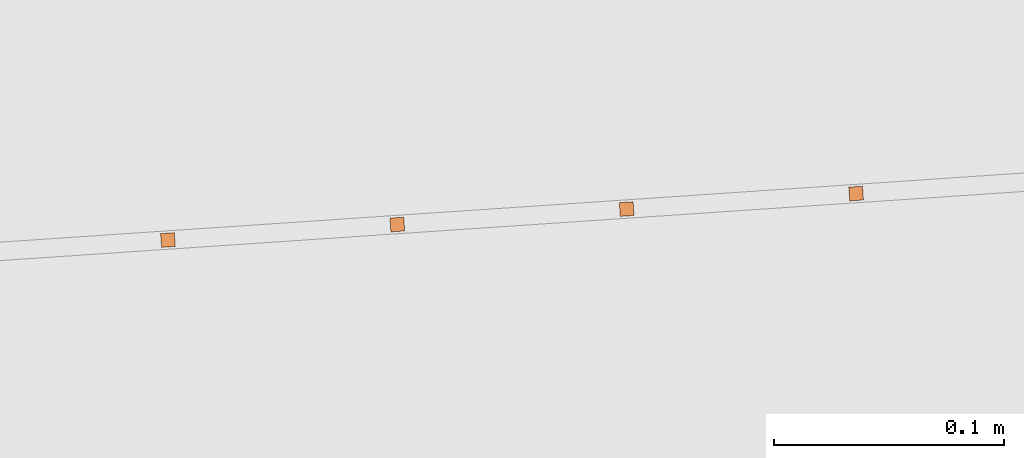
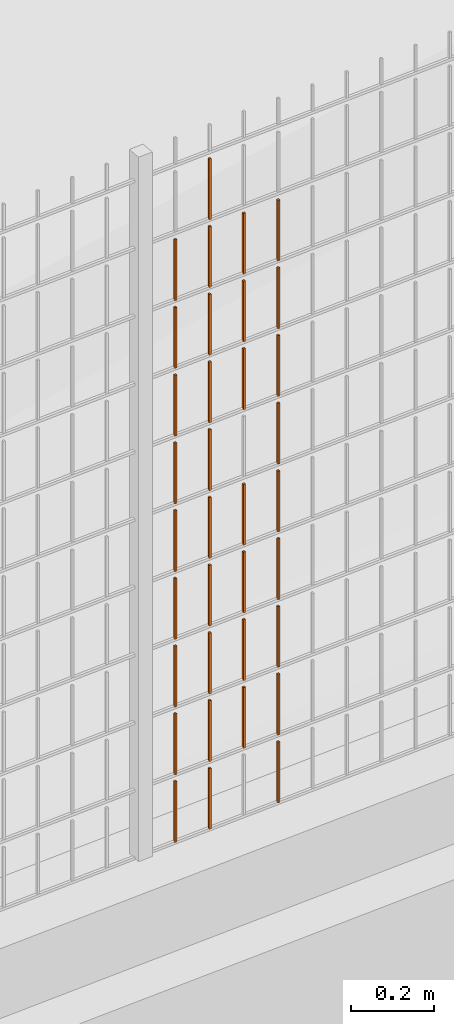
# One storey, part 103 of 1809: 35 proxies, 1 element without a shape of its own.
"""IFC2X3 building model written with IfcOpenShell, lengths in millimetres."""

import ifcopenshell
import ifcopenshell.guid

model = None  # the IFC model being written
_history = None  # IfcOwnerHistory: only IFC2X3 demands one
_inside = {}  # id of a spatial element -> (the spatial element, [elements in it])
_under = {}  # id of a project, library or spatial element -> (it, [spatial elements below it])
_declared = {}  # id of a project -> (the project, [libraries it declares])
_typed = {}  # id of a type object -> (the type object, [elements of that type])
_made_of = {}  # id of a material, layer set ... -> (it, [elements and type objects made of it])


def new_model(schema):
    """Start an empty IFC model of exactly this schema.

    Asked for "IFC4X3", IfcOpenShell would pick the latest addendum, in which some entities
    have other attributes; the version numbers below select the first issue.
    IFC2X3 requires an IfcOwnerHistory on every rooted entity: one is made here for all.
    """
    global model, _history
    if schema == "IFC4X3":
        model = ifcopenshell.file(schema_version=(4, 3, 0, 0))
    else:
        model = ifcopenshell.file(schema=schema)
    _inside.clear()
    _under.clear()
    _declared.clear()
    _typed.clear()
    _made_of.clear()
    _history = None
    if model.schema == "IFC2X3":
        org = make("IfcOrganization", Name="unknown")
        user = make(
            "IfcPersonAndOrganization",
            ThePerson=make("IfcPerson", FamilyName="unknown"),
            TheOrganization=org,
        )
        app = make(
            "IfcApplication",
            ApplicationDeveloper=org,
            Version="unknown",
            ApplicationFullName="unknown",
            ApplicationIdentifier="unknown",
        )
        _history = make(
            "IfcOwnerHistory",
            OwningUser=user,
            OwningApplication=app,
            ChangeAction="ADDED",
            CreationDate=0,
        )
    return model


def make(cls, **values):
    """One entity of the class cls with the attributes given. An attribute that is None is left unset."""
    return model.create_entity(
        cls, **{name: value for name, value in values.items() if value is not None}
    )


def entity(cls, *values):
    """Any entity or typed value of the class cls, its attributes in the order of the schema. None: left unset."""
    e = model.create_entity(cls)
    for i, value in enumerate(values):
        if value is not None:
            e[i] = value
    return e


def rooted(cls, **values):
    """An entity with a GlobalId (a new one), such as an element, a storey or a relation."""
    return make(cls, GlobalId=ifcopenshell.guid.new(), OwnerHistory=_history, **values)


def si_unit(unit_type, name, prefix=None):
    """IfcSIUnit, for example si_unit("LENGTHUNIT", "METRE", prefix="MILLI")."""
    return make("IfcSIUnit", UnitType=unit_type, Prefix=prefix, Name=name)


def converted_unit(unit_type, name, factor, base, dimensions=None, offset=None):
    """IfcConversionBasedUnit, such as the inch: factor (a typed value) times the base unit."""
    return make(
        "IfcConversionBasedUnit"
        if offset is None
        else "IfcConversionBasedUnitWithOffset",
        ConversionOffset=offset,
        Dimensions=None
        if dimensions is None
        else entity("IfcDimensionalExponents", *dimensions),
        UnitType=unit_type,
        Name=name,
        ConversionFactor=make(
            "IfcMeasureWithUnit", ValueComponent=factor, UnitComponent=base
        ),
    )


def derived_unit(unit_type, elements):
    """IfcDerivedUnit: a product of units, each with its exponent."""
    return make(
        "IfcDerivedUnit",
        Elements=[
            make("IfcDerivedUnitElement", Unit=unit, Exponent=power)
            for unit, power in elements
        ],
        UnitType=unit_type,
    )


def money_unit(currency):
    """IfcMonetaryUnit."""
    return make("IfcMonetaryUnit", Currency=currency)


def assignment(units):
    """IfcUnitAssignment: the units of a project."""
    return None if units is None else make("IfcUnitAssignment", Units=units)


def point(xyz):
    """IfcCartesianPoint."""
    return None if xyz is None else make("IfcCartesianPoint", Coordinates=xyz)


def direction(xyz):
    """IfcDirection."""
    return None if xyz is None else make("IfcDirection", DirectionRatios=xyz)


def frame(location, z_axis=None, x_axis=None):
    """IfcAxis2Placement3D, a coordinate frame: its origin and axes. An axis left out is left unset."""
    return make(
        "IfcAxis2Placement3D",
        Location=point(location),
        Axis=direction(z_axis),
        RefDirection=direction(x_axis),
    )


def origin_with_axes():
    """The frame at (0, 0, 0) with the z axis (0, 0, 1) and the x axis (1, 0, 0) written out."""
    return frame((0.0, 0.0, 0.0), z_axis=(0.0, 0.0, 1.0), x_axis=(1.0, 0.0, 0.0))


def place(relative_to, where):
    """IfcLocalPlacement: puts the frame where relative to a parent placement (None: the world)."""
    return make(
        "IfcLocalPlacement", PlacementRelTo=relative_to, RelativePlacement=where
    )


def context(
    kind, dimensions, precision=None, world=None, true_north=None, identifier=None
):
    """IfcGeometricRepresentationContext, for example the 3D "Model" context."""
    return make(
        "IfcGeometricRepresentationContext",
        ContextIdentifier=identifier,
        ContextType=kind,
        CoordinateSpaceDimension=dimensions,
        Precision=precision,
        WorldCoordinateSystem=world,
        TrueNorth=true_north,
    )


def subcontext(parent, identifier, kind, view, scale=None):
    """IfcGeometricRepresentationSubContext, for example "Body" below "Model"."""
    return make(
        "IfcGeometricRepresentationSubContext",
        ContextIdentifier=identifier,
        ContextType=kind,
        ParentContext=parent,
        TargetScale=scale,
        TargetView=view,
    )


def project(units=None, contexts=None):
    """IfcProject with its units and contexts."""
    return rooted(
        "IfcProject",
        Name="project",
        RepresentationContexts=contexts,
        UnitsInContext=assignment(units),
    )


def spatial(cls, under=None, at=None, **own):
    """A site, building, storey or space (cls), placed at a placement, below another one or the project."""
    s = rooted(cls, ObjectPlacement=at, **own)
    if under is not None:
        _under.setdefault(under.id(), (under, []))[1].append(s)
    return s


def faces_of(points, faces, orient=None, outer=None):
    """IfcFace entities. A face is a list of loops; a loop is a list of indices into points, from 0.

    orient and outer hold one flag for each loop. By default every Orientation is true, the
    first loop of a face is its IfcFaceOuterBound and the others are IfcFaceBound.
    """
    made = []
    for i, loops in enumerate(faces):
        bounds = []
        for j, loop in enumerate(loops):
            is_outer = j == 0 if outer is None else outer[i][j]
            bounds.append(
                make(
                    "IfcFaceOuterBound" if is_outer else "IfcFaceBound",
                    Bound=make("IfcPolyLoop", Polygon=[points[k] for k in loop]),
                    Orientation=True if orient is None else orient[i][j],
                )
            )
        made.append(make("IfcFace", Bounds=bounds))
    return made


def faceted_brep(points, faces, orient=None, outer=None, voids=None):
    """IfcFacetedBrep: a solid bounded by flat faces; with voids (closed shells), ...WithVoids."""
    shared = [point(p) for p in points]
    hull = make("IfcClosedShell", CfsFaces=faces_of(shared, faces, orient, outer))
    if voids is None:
        return make("IfcFacetedBrep", Outer=hull)
    return make(
        "IfcFacetedBrepWithVoids",
        Outer=hull,
        Voids=[
            make(cls, CfsFaces=faces_of(shared, fs, o, b)) for cls, fs, o, b in voids
        ],
    )


def shape(context_of_items, identifier, shape_type, items):
    """IfcShapeRepresentation: the items that make up one representation, for example the "Body"."""
    return make(
        "IfcShapeRepresentation",
        ContextOfItems=context_of_items,
        RepresentationIdentifier=identifier,
        RepresentationType=shape_type,
        Items=items,
    )


def source(mapping_origin, context_of_items, identifier, shape_type, items):
    """IfcRepresentationMap: a shape defined once, which mapped items show again and again."""
    return make(
        "IfcRepresentationMap",
        MappingOrigin=mapping_origin,
        MappedRepresentation=shape(context_of_items, identifier, shape_type, items),
    )


def transform(
    local_origin,
    x_axis=None,
    y_axis=None,
    z_axis=None,
    scale=None,
    scale2=None,
    scale3=None,
    uniform=True,
):
    """IfcCartesianTransformationOperator3D, or its non-uniform kind. x_axis, y_axis, z_axis: its Axis1, 2, 3."""
    if uniform:
        return make(
            "IfcCartesianTransformationOperator3D",
            Axis1=direction(x_axis),
            Axis2=direction(y_axis),
            LocalOrigin=point(local_origin),
            Scale=scale,
            Axis3=direction(z_axis),
        )
    return make(
        "IfcCartesianTransformationOperator3DnonUniform",
        Axis1=direction(x_axis),
        Axis2=direction(y_axis),
        LocalOrigin=point(local_origin),
        Scale=scale,
        Axis3=direction(z_axis),
        Scale2=scale2,
        Scale3=scale3,
    )


def mapped(mapping_source, mapping_target):
    """IfcMappedItem: shows the shape of a source again, moved by a transform."""
    return make(
        "IfcMappedItem", MappingSource=mapping_source, MappingTarget=mapping_target
    )


def material(Name=None, Category=None):
    """IfcMaterial."""
    return make("IfcMaterial", Name=Name, Category=Category)


def made_of(thing, what):
    """Note that an element or type object is made of a material, layer set ...; save() writes the relation."""
    if what is not None:
        _made_of.setdefault(what.id(), (what, []))[1].append(thing)
    return thing


def type_object(cls, material=None, **own):
    """A type object (cls), such as IfcWallType, which elements share."""
    return made_of(rooted(cls, **own), material)


def element(
    cls,
    number,
    at=None,
    inside=None,
    cuts=None,
    type_object=None,
    material=None,
    context=None,
    identifier="Body",
    shape_type=None,
    held_by="IfcProductDefinitionShape",
    body=None,
    shapes=None,
    **own,
):
    """One element of the class cls, such as IfcWall. Its Tag is "e" and its number.

    at: its placement. inside: the storey or other place that contains it. cuts: it is an
    opening in that element (IfcRelVoidsElement). A single representation is given by context,
    identifier, shape_type and body (its items); several are given by shapes. held_by: the class
    of the entity that holds the representations. save() writes the other relations.
    """
    e = rooted(cls, Tag="e%d" % number, ObjectPlacement=at, **own)
    if body is not None:
        shapes = [shape(context, identifier, shape_type, body)]
    if shapes is not None:
        e.Representation = make(held_by, Representations=shapes)
    if inside is not None:
        _inside.setdefault(inside.id(), (inside, []))[1].append(e)
    if cuts is not None:
        rooted(
            "IfcRelVoidsElement", RelatingBuildingElement=cuts, RelatedOpeningElement=e
        )
    if type_object is not None:
        _typed.setdefault(type_object.id(), (type_object, []))[1].append(e)
    return made_of(e, material)


def aggregate(whole, parts):
    """IfcRelAggregates: a whole, such as a stair, and the parts it consists of."""
    return rooted("IfcRelAggregates", RelatingObject=whole, RelatedObjects=parts)


def save(model, path):
    """Write the relations noted so far, then the file.

    IfcRelAggregates (storeys below a building ...), IfcRelContainedInSpatialStructure (elements
    in a storey), IfcRelDefinesByType, IfcRelAssociatesMaterial and IfcRelDeclares: one each for
    every whole, place, type object, material and project.
    """
    for whole, parts in _under.values():
        aggregate(whole, parts)
    for where, things in _inside.values():
        rooted(
            "IfcRelContainedInSpatialStructure",
            RelatedElements=things,
            RelatingStructure=where,
        )
    for kind, things in _typed.values():
        rooted("IfcRelDefinesByType", RelatedObjects=things, RelatingType=kind)
    for what, things in _made_of.values():
        rooted("IfcRelAssociatesMaterial", RelatedObjects=things, RelatingMaterial=what)
    for by, libraries in _declared.values():
        rooted("IfcRelDeclares", RelatingContext=by, RelatedDefinitions=libraries)
    model.write(path)


model = new_model("IFC2X3")

# Units and contexts
model_context = context("Model", 3, precision=0.01, world=origin_with_axes(), true_north=direction((0.0, 1.0)))
body_context = subcontext(model_context, "Body", "Model", "MODEL_VIEW")
ifc_project = project(units=[si_unit("LENGTHUNIT", "METRE", prefix="MILLI"), si_unit("AREAUNIT", "SQUARE_METRE"), si_unit("VOLUMEUNIT", "CUBIC_METRE"), converted_unit("PLANEANGLEUNIT", "DEGREE", entity("IfcPlaneAngleMeasure", 0.0174532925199), si_unit("PLANEANGLEUNIT", "RADIAN"), dimensions=[0, 0, 0, 0, 0, 0, 0]), si_unit("SOLIDANGLEUNIT", "STERADIAN"), money_unit("EUR"), converted_unit("TIMEUNIT", "Year", entity("IfcTimeMeasure", 31556926.0), si_unit("TIMEUNIT", "SECOND"), dimensions=[0, 0, 1, 0, 0, 0, 0]), si_unit("MASSUNIT", "GRAM", prefix="KILO"), si_unit("THERMODYNAMICTEMPERATUREUNIT", "DEGREE_CELSIUS"), si_unit("LUMINOUSINTENSITYUNIT", "LUMEN"), si_unit("ENERGYUNIT", "JOULE", prefix="MEGA"), derived_unit("THERMALCONDUCTANCEUNIT", [(si_unit("POWERUNIT", "WATT"), 1), (si_unit("LENGTHUNIT", "METRE"), -1), (si_unit("THERMODYNAMICTEMPERATUREUNIT", "KELVIN"), -1)]), derived_unit("SPECIFICHEATCAPACITYUNIT", [(si_unit("ENERGYUNIT", "JOULE"), 1), (si_unit("MASSUNIT", "GRAM", prefix="KILO"), -1), (si_unit("THERMODYNAMICTEMPERATUREUNIT", "KELVIN"), -1)]), derived_unit("MASSDENSITYUNIT", [(si_unit("MASSUNIT", "GRAM", prefix="KILO"), 1), (si_unit("VOLUMEUNIT", "CUBIC_METRE"), -1)])], contexts=[model_context])

# Site, building, storey
site_placement = place(None, origin_with_axes())
site = spatial("IfcSite", under=ifc_project, at=site_placement, Name="Politse- ja Piirivalveameti ning Päästeameti ühishoone", CompositionType="ELEMENT")
building_placement = place(site_placement, origin_with_axes())
building = spatial("IfcBuilding", under=site, at=building_placement, Name="Politse- ja Piirivalveameti ning Päästeameti ühishoone", CompositionType="ELEMENT")
storey_placement = place(building_placement, origin_with_axes())
storey = spatial("IfcBuildingStorey", under=building, at=storey_placement, Name="Esimene korrus", CompositionType="ELEMENT", Elevation=0.0)

# Proxies
building_element_proxy_type_1 = type_object("IfcBuildingElementProxyType", Name="Railing Type", PredefinedType="NOTDEFINED")
proxy_1_placement = place(storey_placement, frame((89252.001212, -29183.4766571, 203.661247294), z_axis=(0.0, 0.0, 1.0), x_axis=(1.0, 0.0, 0.0)))
proxy_1 = element("IfcBuildingElementProxy", 1, at=proxy_1_placement, inside=storey, type_object=building_element_proxy_type_1, Name="PIIRDEAED")
ifc_material = material(Name="ET-03_Raud")
building_element_proxy_type_2 = type_object("IfcBuildingElementProxyType", Name="IfcBuildingElementProxy", PredefinedType="NOTDEFINED")
shared_shape_1 = source(origin_with_axes(), body_context, "Body", "Brep", [
    faceted_brep([(3.0, 3.0, -0.000752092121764), (-3.0, 3.0, -0.000752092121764), (-3.0, 3.0, 179.99926046), (3.0, 3.0, 179.99926046), (3.0, -3.0, 0.000752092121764), (-3.0, -3.0, 0.000752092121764), (-3.0, -3.0, 180.000764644), (3.0, -3.0, 180.000764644)], [[[0, 1, 2, 3]], [[0, 4, 5, 1]], [[1, 5, 6, 2]], [[3, 2, 6, 7]], [[4, 0, 3, 7]], [[5, 4, 7, 6]]]),
])
proxy_2_placement = place(proxy_1_placement, frame((-94411.5570552, -23674.9191443, 1803.51172333), z_axis=(0.0, 0.0, 1.0), x_axis=(1.0, 0.0, 0.0)))
proxy_2 = element("IfcBuildingElementProxy", 2, at=proxy_2_placement, type_object=building_element_proxy_type_2, material=ifc_material, Name="BALUSTER - 001", context=body_context, shape_type="MappedRepresentation", body=[
    mapped(shared_shape_1, transform((0.0, 0.0, 0.0), x_axis=(-0.0673926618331, 0.997726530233, 0.0), y_axis=(-0.997726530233, -0.0673926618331, 0.0), z_axis=(0.0, 0.0, 1.0))),
])
shared_shape_2 = source(origin_with_axes(), body_context, "Body", "Brep", [
    faceted_brep([(3.0, 3.0, -0.000752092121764), (-3.0, 3.0, -0.000752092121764), (-3.0, 3.0, 179.99926046), (3.0, 3.0, 179.99926046), (3.0, -3.0, 0.000752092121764), (-3.0, -3.0, 0.000752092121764), (-3.0, -3.0, 180.000764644), (3.0, -3.0, 180.000764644)], [[[0, 1, 2, 3]], [[0, 4, 5, 1]], [[1, 5, 6, 2]], [[3, 2, 6, 7]], [[4, 0, 3, 7]], [[5, 4, 7, 6]]]),
])
proxy_3_placement = place(proxy_1_placement, frame((-94411.5570552, -23674.9191443, 203.511723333), z_axis=(0.0, 0.0, 1.0), x_axis=(1.0, 0.0, 0.0)))
proxy_3 = element("IfcBuildingElementProxy", 3, at=proxy_3_placement, type_object=building_element_proxy_type_2, material=ifc_material, Name="BALUSTER - 001", context=body_context, shape_type="MappedRepresentation", body=[
    mapped(shared_shape_2, transform((0.0, 0.0, 0.0), x_axis=(-0.0673926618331, 0.997726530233, 0.0), y_axis=(-0.997726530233, -0.0673926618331, 0.0), z_axis=(0.0, 0.0, 1.0))),
])
shared_shape_3 = source(origin_with_axes(), body_context, "Body", "Brep", [
    faceted_brep([(3.0, 3.0, -0.000752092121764), (-3.0, 3.0, -0.000752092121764), (-3.0, 3.0, 179.99926046), (3.0, 3.0, 179.99926046), (3.0, -3.0, 0.000752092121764), (-3.0, -3.0, 0.000752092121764), (-3.0, -3.0, 180.000764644), (3.0, -3.0, 180.000764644)], [[[0, 1, 2, 3]], [[0, 4, 5, 1]], [[1, 5, 6, 2]], [[3, 2, 6, 7]], [[4, 0, 3, 7]], [[5, 4, 7, 6]]]),
])
proxy_4_placement = place(proxy_1_placement, frame((-94411.5570552, -23674.9191443, 3.51172333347), z_axis=(0.0, 0.0, 1.0), x_axis=(1.0, 0.0, 0.0)))
proxy_4 = element("IfcBuildingElementProxy", 4, at=proxy_4_placement, type_object=building_element_proxy_type_2, material=ifc_material, Name="BALUSTER - 001", context=body_context, shape_type="MappedRepresentation", body=[
    mapped(shared_shape_3, transform((0.0, 0.0, 0.0), x_axis=(-0.0673926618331, 0.997726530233, 0.0), y_axis=(-0.997726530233, -0.0673926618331, 0.0), z_axis=(0.0, 0.0, 1.0))),
])
shared_shape_4 = source(origin_with_axes(), body_context, "Body", "Brep", [
    faceted_brep([(3.0, 3.0, -0.000752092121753), (-3.0, 3.0, -0.000752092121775), (-3.0, 3.0, 179.99926046), (3.0, 3.0, 179.99926046), (3.0, -3.0, 0.000752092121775), (-3.0, -3.0, 0.000752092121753), (-3.0, -3.0, 180.000764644), (3.0, -3.0, 180.000764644)], [[[0, 1, 2, 3]], [[0, 4, 5, 1]], [[1, 5, 6, 2]], [[3, 2, 6, 7]], [[4, 0, 3, 7]], [[5, 4, 7, 6]]]),
])
proxy_5_placement = place(proxy_1_placement, frame((-94511.3297083, -23681.6584105, 3.48665359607), z_axis=(0.0, 0.0, 1.0), x_axis=(1.0, 0.0, 0.0)))
proxy_5 = element("IfcBuildingElementProxy", 5, at=proxy_5_placement, type_object=building_element_proxy_type_2, material=ifc_material, Name="BALUSTER - 001", context=body_context, shape_type="MappedRepresentation", body=[
    mapped(shared_shape_4, transform((0.0, 0.0, 0.0), x_axis=(-0.0673926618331, 0.997726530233, 0.0), y_axis=(-0.997726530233, -0.0673926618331, 0.0), z_axis=(0.0, 0.0, 1.0))),
])
shared_shape_5 = source(origin_with_axes(), body_context, "Body", "Brep", [
    faceted_brep([(3.0, 3.0, -0.000752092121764), (-3.0, 3.0, -0.000752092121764), (-3.0, 3.0, 179.99926046), (3.0, 3.0, 179.99926046), (3.0, -3.0, 0.000752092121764), (-3.0, -3.0, 0.000752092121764), (-3.0, -3.0, 180.000764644), (3.0, -3.0, 180.000764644)], [[[0, 1, 2, 3]], [[0, 4, 5, 1]], [[1, 5, 6, 2]], [[3, 2, 6, 7]], [[4, 0, 3, 7]], [[5, 4, 7, 6]]]),
])
proxy_6_placement = place(proxy_1_placement, frame((-94311.7844022, -23668.1798781, 803.536793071), z_axis=(0.0, 0.0, 1.0), x_axis=(1.0, 0.0, 0.0)))
proxy_6 = element("IfcBuildingElementProxy", 6, at=proxy_6_placement, type_object=building_element_proxy_type_2, material=ifc_material, Name="BALUSTER - 001", context=body_context, shape_type="MappedRepresentation", body=[
    mapped(shared_shape_5, transform((0.0, 0.0, 0.0), x_axis=(-0.0673926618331, 0.997726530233, 0.0), y_axis=(-0.997726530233, -0.0673926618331, 0.0), z_axis=(0.0, 0.0, 1.0))),
])
proxy_7_placement = place(proxy_1_placement, frame((-94311.7844022, -23668.1798781, 1203.53679307), z_axis=(0.0, 0.0, 1.0), x_axis=(1.0, 0.0, 0.0)))
proxy_7 = element("IfcBuildingElementProxy", 7, at=proxy_7_placement, type_object=building_element_proxy_type_2, material=ifc_material, Name="BALUSTER - 001", context=body_context, shape_type="MappedRepresentation", body=[
    mapped(shared_shape_5, transform((0.0, 0.0, 0.0), x_axis=(-0.0673926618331, 0.997726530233, 0.0), y_axis=(-0.997726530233, -0.0673926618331, 0.0), z_axis=(0.0, 0.0, 1.0))),
])
shared_shape_6 = source(origin_with_axes(), body_context, "Body", "Brep", [
    faceted_brep([(3.0, 3.0, -0.000752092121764), (-3.0, 3.0, -0.000752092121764), (-3.0, 3.0, 179.99926046), (3.0, 3.0, 179.99926046), (3.0, -3.0, 0.000752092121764), (-3.0, -3.0, 0.000752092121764), (-3.0, -3.0, 180.000764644), (3.0, -3.0, 180.000764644)], [[[0, 1, 2, 3]], [[0, 4, 5, 1]], [[1, 5, 6, 2]], [[3, 2, 6, 7]], [[4, 0, 3, 7]], [[5, 4, 7, 6]]]),
])
proxy_8_placement = place(proxy_1_placement, frame((-94311.7844022, -23668.1798781, 1403.53679307), z_axis=(0.0, 0.0, 1.0), x_axis=(1.0, 0.0, 0.0)))
proxy_8 = element("IfcBuildingElementProxy", 8, at=proxy_8_placement, type_object=building_element_proxy_type_2, material=ifc_material, Name="BALUSTER - 001", context=body_context, shape_type="MappedRepresentation", body=[
    mapped(shared_shape_6, transform((0.0, 0.0, 0.0), x_axis=(-0.0673926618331, 0.997726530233, 0.0), y_axis=(-0.997726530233, -0.0673926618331, 0.0), z_axis=(0.0, 0.0, 1.0))),
])
proxy_9_placement = place(proxy_1_placement, frame((-94311.7844022, -23668.1798781, 1603.53679307), z_axis=(0.0, 0.0, 1.0), x_axis=(1.0, 0.0, 0.0)))
proxy_9 = element("IfcBuildingElementProxy", 9, at=proxy_9_placement, type_object=building_element_proxy_type_2, material=ifc_material, Name="BALUSTER - 001", context=body_context, shape_type="MappedRepresentation", body=[
    mapped(shared_shape_6, transform((0.0, 0.0, 0.0), x_axis=(-0.0673926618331, 0.997726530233, 0.0), y_axis=(-0.997726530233, -0.0673926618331, 0.0), z_axis=(0.0, 0.0, 1.0))),
])
shared_shape_7 = source(origin_with_axes(), body_context, "Body", "Brep", [
    faceted_brep([(3.0, 3.0, -0.000752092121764), (-3.0, 3.0, -0.000752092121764), (-3.0, 3.0, 179.99926046), (3.0, 3.0, 179.99926046), (3.0, -3.0, 0.000752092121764), (-3.0, -3.0, 0.000752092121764), (-3.0, -3.0, 180.000764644), (3.0, -3.0, 180.000764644)], [[[0, 1, 2, 3]], [[0, 4, 5, 1]], [[1, 5, 6, 2]], [[3, 2, 6, 7]], [[4, 0, 3, 7]], [[5, 4, 7, 6]]]),
])
proxy_10_placement = place(proxy_1_placement, frame((-94212.0117492, -23661.440612, 3.56186280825), z_axis=(0.0, 0.0, 1.0), x_axis=(1.0, 0.0, 0.0)))
proxy_10 = element("IfcBuildingElementProxy", 10, at=proxy_10_placement, type_object=building_element_proxy_type_2, material=ifc_material, Name="BALUSTER - 001", context=body_context, shape_type="MappedRepresentation", body=[
    mapped(shared_shape_7, transform((0.0, 0.0, 0.0), x_axis=(-0.0673926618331, 0.997726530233, 0.0), y_axis=(-0.997726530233, -0.0673926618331, 0.0), z_axis=(0.0, 0.0, 1.0))),
])
shared_shape_8 = source(origin_with_axes(), body_context, "Body", "Brep", [
    faceted_brep([(3.0, 3.0, -0.000752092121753), (-3.0, 3.0, -0.000752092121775), (-3.0, 3.0, 179.99926046), (3.0, 3.0, 179.99926046), (3.0, -3.0, 0.000752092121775), (-3.0, -3.0, 0.000752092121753), (-3.0, -3.0, 180.000764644), (3.0, -3.0, 180.000764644)], [[[0, 1, 2, 3]], [[0, 4, 5, 1]], [[1, 5, 6, 2]], [[3, 2, 6, 7]], [[4, 0, 3, 7]], [[5, 4, 7, 6]]]),
])
proxy_11_placement = place(proxy_1_placement, frame((-94511.3297083, -23681.6584105, 203.486653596), z_axis=(0.0, 0.0, 1.0), x_axis=(1.0, 0.0, 0.0)))
proxy_11 = element("IfcBuildingElementProxy", 11, at=proxy_11_placement, type_object=building_element_proxy_type_2, material=ifc_material, Name="BALUSTER - 001", context=body_context, shape_type="MappedRepresentation", body=[
    mapped(shared_shape_8, transform((0.0, 0.0, 0.0), x_axis=(-0.0673926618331, 0.997726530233, 0.0), y_axis=(-0.997726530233, -0.0673926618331, 0.0), z_axis=(0.0, 0.0, 1.0))),
])
shared_shape_9 = source(origin_with_axes(), body_context, "Body", "Brep", [
    faceted_brep([(3.0, 3.0, -0.000752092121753), (-3.0, 3.0, -0.000752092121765), (-3.00000000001, 3.0, 179.99926046), (2.99999999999, 3.0, 179.99926046), (3.0, -3.0, 0.000752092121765), (-3.0, -3.0, 0.000752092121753), (-3.00000000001, -3.0, 180.000764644), (2.99999999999, -3.0, 180.000764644)], [[[0, 1, 2, 3]], [[0, 4, 5, 1]], [[1, 5, 6, 2]], [[3, 2, 6, 7]], [[4, 0, 3, 7]], [[5, 4, 7, 6]]]),
])
proxy_12_placement = place(proxy_1_placement, frame((-94411.5570552, -23674.9191443, 1003.51172333), z_axis=(0.0, 0.0, 1.0), x_axis=(1.0, 0.0, 0.0)))
proxy_12 = element("IfcBuildingElementProxy", 12, at=proxy_12_placement, type_object=building_element_proxy_type_2, material=ifc_material, Name="BALUSTER - 001", context=body_context, shape_type="MappedRepresentation", body=[
    mapped(shared_shape_9, transform((0.0, 0.0, 0.0), x_axis=(-0.0673926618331, 0.997726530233, 0.0), y_axis=(-0.997726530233, -0.0673926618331, 0.0), z_axis=(0.0, 0.0, 1.0))),
])
shared_shape_10 = source(origin_with_axes(), body_context, "Body", "Brep", [
    faceted_brep([(3.0, 3.0, -0.000752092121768), (-3.0, 3.0, -0.00075209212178), (-3.00000000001, 3.0, 179.99926046), (2.99999999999, 3.0, 179.99926046), (3.0, -3.0, 0.00075209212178), (-3.0, -3.0, 0.000752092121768), (-3.00000000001, -3.0, 180.000764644), (2.99999999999, -3.0, 180.000764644)], [[[0, 1, 2, 3]], [[0, 4, 5, 1]], [[1, 5, 6, 2]], [[3, 2, 6, 7]], [[4, 0, 3, 7]], [[5, 4, 7, 6]]]),
])
proxy_13_placement = place(proxy_1_placement, frame((-94511.3297083, -23681.6584105, 1003.4866536), z_axis=(0.0, 0.0, 1.0), x_axis=(1.0, 0.0, 0.0)))
proxy_13 = element("IfcBuildingElementProxy", 13, at=proxy_13_placement, type_object=building_element_proxy_type_2, material=ifc_material, Name="BALUSTER - 001", context=body_context, shape_type="MappedRepresentation", body=[
    mapped(shared_shape_10, transform((0.0, 0.0, 0.0), x_axis=(-0.0673926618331, 0.997726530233, 0.0), y_axis=(-0.997726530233, -0.0673926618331, 0.0), z_axis=(0.0, 0.0, 1.0))),
])
shared_shape_11 = source(origin_with_axes(), body_context, "Body", "Brep", [
    faceted_brep([(3.0, 3.0, -0.000752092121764), (-3.0, 3.0, -0.000752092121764), (-3.0, 3.0, 179.99926046), (3.0, 3.0, 179.99926046), (3.0, -3.0, 0.000752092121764), (-3.0, -3.0, 0.000752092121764), (-3.0, -3.0, 180.000764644), (3.0, -3.0, 180.000764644)], [[[0, 1, 2, 3]], [[0, 4, 5, 1]], [[1, 5, 6, 2]], [[3, 2, 6, 7]], [[4, 0, 3, 7]], [[5, 4, 7, 6]]]),
])
proxy_14_placement = place(proxy_1_placement, frame((-94212.0117492, -23661.440612, 203.561862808), z_axis=(0.0, 0.0, 1.0), x_axis=(1.0, 0.0, 0.0)))
proxy_14 = element("IfcBuildingElementProxy", 14, at=proxy_14_placement, type_object=building_element_proxy_type_2, material=ifc_material, Name="BALUSTER - 001", context=body_context, shape_type="MappedRepresentation", body=[
    mapped(shared_shape_11, transform((0.0, 0.0, 0.0), x_axis=(-0.0673926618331, 0.997726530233, 0.0), y_axis=(-0.997726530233, -0.0673926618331, 0.0), z_axis=(0.0, 0.0, 1.0))),
])
proxy_15_placement = place(proxy_1_placement, frame((-94212.0117492, -23661.440612, 603.561862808), z_axis=(0.0, 0.0, 1.0), x_axis=(1.0, 0.0, 0.0)))
proxy_15 = element("IfcBuildingElementProxy", 15, at=proxy_15_placement, type_object=building_element_proxy_type_2, material=ifc_material, Name="BALUSTER - 001", context=body_context, shape_type="MappedRepresentation", body=[
    mapped(shared_shape_11, transform((0.0, 0.0, 0.0), x_axis=(-0.0673926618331, 0.997726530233, 0.0), y_axis=(-0.997726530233, -0.0673926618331, 0.0), z_axis=(0.0, 0.0, 1.0))),
])
shared_shape_12 = source(origin_with_axes(), body_context, "Body", "Brep", [
    faceted_brep([(3.0, 3.0, -0.000752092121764), (-3.0, 3.0, -0.000752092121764), (-3.0, 3.0, 179.99926046), (3.0, 3.0, 179.99926046), (3.0, -3.0, 0.000752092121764), (-3.0, -3.0, 0.000752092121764), (-3.0, -3.0, 180.000764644), (3.0, -3.0, 180.000764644)], [[[0, 1, 2, 3]], [[0, 4, 5, 1]], [[1, 5, 6, 2]], [[3, 2, 6, 7]], [[4, 0, 3, 7]], [[5, 4, 7, 6]]]),
])
proxy_16_placement = place(proxy_1_placement, frame((-94212.0117492, -23661.440612, 403.561862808), z_axis=(0.0, 0.0, 1.0), x_axis=(1.0, 0.0, 0.0)))
proxy_16 = element("IfcBuildingElementProxy", 16, at=proxy_16_placement, type_object=building_element_proxy_type_2, material=ifc_material, Name="BALUSTER - 001", context=body_context, shape_type="MappedRepresentation", body=[
    mapped(shared_shape_12, transform((0.0, 0.0, 0.0), x_axis=(-0.0673926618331, 0.997726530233, 0.0), y_axis=(-0.997726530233, -0.0673926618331, 0.0), z_axis=(0.0, 0.0, 1.0))),
])
shared_shape_13 = source(origin_with_axes(), body_context, "Body", "Brep", [
    faceted_brep([(3.0, 3.0, -0.000752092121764), (-3.0, 3.0, -0.000752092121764), (-3.0, 3.0, 179.99926046), (3.0, 3.0, 179.99926046), (3.0, -3.0, 0.000752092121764), (-3.0, -3.0, 0.000752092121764), (-3.0, -3.0, 180.000764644), (3.0, -3.0, 180.000764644)], [[[0, 1, 2, 3]], [[0, 4, 5, 1]], [[1, 5, 6, 2]], [[3, 2, 6, 7]], [[4, 0, 3, 7]], [[5, 4, 7, 6]]]),
])
proxy_17_placement = place(proxy_1_placement, frame((-94212.0117492, -23661.440612, 803.561862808), z_axis=(0.0, 0.0, 1.0), x_axis=(1.0, 0.0, 0.0)))
proxy_17 = element("IfcBuildingElementProxy", 17, at=proxy_17_placement, type_object=building_element_proxy_type_2, material=ifc_material, Name="BALUSTER - 001", context=body_context, shape_type="MappedRepresentation", body=[
    mapped(shared_shape_13, transform((0.0, 0.0, 0.0), x_axis=(-0.0673926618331, 0.997726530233, 0.0), y_axis=(-0.997726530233, -0.0673926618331, 0.0), z_axis=(0.0, 0.0, 1.0))),
])
shared_shape_14 = source(origin_with_axes(), body_context, "Body", "Brep", [
    faceted_brep([(3.0, 3.0, -0.000752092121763), (-3.0, 3.0, -0.000752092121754), (-3.00000000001, 3.0, 179.99926046), (2.99999999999, 3.0, 179.99926046), (3.0, -3.0, 0.000752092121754), (-3.0, -3.0, 0.000752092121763), (-3.00000000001, -3.0, 180.000764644), (2.99999999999, -3.0, 180.000764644)], [[[0, 1, 2, 3]], [[0, 4, 5, 1]], [[1, 5, 6, 2]], [[3, 2, 6, 7]], [[4, 0, 3, 7]], [[5, 4, 7, 6]]]),
])
proxy_18_placement = place(proxy_1_placement, frame((-94212.0117492, -23661.440612, 1003.56186281), z_axis=(0.0, 0.0, 1.0), x_axis=(1.0, 0.0, 0.0)))
proxy_18 = element("IfcBuildingElementProxy", 18, at=proxy_18_placement, type_object=building_element_proxy_type_2, material=ifc_material, Name="BALUSTER - 001", context=body_context, shape_type="MappedRepresentation", body=[
    mapped(shared_shape_14, transform((0.0, 0.0, 0.0), x_axis=(-0.0673926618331, 0.997726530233, 0.0), y_axis=(-0.997726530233, -0.0673926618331, 0.0), z_axis=(0.0, 0.0, 1.0))),
])
shared_shape_15 = source(origin_with_axes(), body_context, "Body", "Brep", [
    faceted_brep([(3.0, 3.0, -0.000752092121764), (-3.0, 3.0, -0.000752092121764), (-3.0, 3.0, 179.99926046), (3.0, 3.0, 179.99926046), (3.0, -3.0, 0.000752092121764), (-3.0, -3.0, 0.000752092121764), (-3.0, -3.0, 180.000764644), (3.0, -3.0, 180.000764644)], [[[0, 1, 2, 3]], [[0, 4, 5, 1]], [[1, 5, 6, 2]], [[3, 2, 6, 7]], [[4, 0, 3, 7]], [[5, 4, 7, 6]]]),
])
proxy_19_placement = place(proxy_1_placement, frame((-94311.7844022, -23668.1798781, 203.536793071), z_axis=(0.0, 0.0, 1.0), x_axis=(1.0, 0.0, 0.0)))
proxy_19 = element("IfcBuildingElementProxy", 19, at=proxy_19_placement, type_object=building_element_proxy_type_2, material=ifc_material, Name="BALUSTER - 001", context=body_context, shape_type="MappedRepresentation", body=[
    mapped(shared_shape_15, transform((0.0, 0.0, 0.0), x_axis=(-0.0673926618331, 0.997726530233, 0.0), y_axis=(-0.997726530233, -0.0673926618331, 0.0), z_axis=(0.0, 0.0, 1.0))),
])
proxy_20_placement = place(proxy_1_placement, frame((-94311.7844022, -23668.1798781, 403.536793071), z_axis=(0.0, 0.0, 1.0), x_axis=(1.0, 0.0, 0.0)))
proxy_20 = element("IfcBuildingElementProxy", 20, at=proxy_20_placement, type_object=building_element_proxy_type_2, material=ifc_material, Name="BALUSTER - 001", context=body_context, shape_type="MappedRepresentation", body=[
    mapped(shared_shape_15, transform((0.0, 0.0, 0.0), x_axis=(-0.0673926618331, 0.997726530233, 0.0), y_axis=(-0.997726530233, -0.0673926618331, 0.0), z_axis=(0.0, 0.0, 1.0))),
])
shared_shape_16 = source(origin_with_axes(), body_context, "Body", "Brep", [
    faceted_brep([(3.0, 3.0, -0.000752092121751), (-3.0, 3.0, -0.000752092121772), (-3.0, 3.0, 179.99926046), (3.0, 3.0, 179.99926046), (3.0, -3.0, 0.000752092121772), (-3.0, -3.0, 0.000752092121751), (-3.0, -3.0, 180.000764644), (3.0, -3.0, 180.000764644)], [[[0, 1, 2, 3]], [[0, 4, 5, 1]], [[1, 5, 6, 2]], [[3, 2, 6, 7]], [[4, 0, 3, 7]], [[5, 4, 7, 6]]]),
])
proxy_21_placement = place(proxy_1_placement, frame((-94511.3297083, -23681.6584105, 403.486653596), z_axis=(0.0, 0.0, 1.0), x_axis=(1.0, 0.0, 0.0)))
proxy_21 = element("IfcBuildingElementProxy", 21, at=proxy_21_placement, type_object=building_element_proxy_type_2, material=ifc_material, Name="BALUSTER - 001", context=body_context, shape_type="MappedRepresentation", body=[
    mapped(shared_shape_16, transform((0.0, 0.0, 0.0), x_axis=(-0.0673926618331, 0.997726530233, 0.0), y_axis=(-0.997726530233, -0.0673926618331, 0.0), z_axis=(0.0, 0.0, 1.0))),
])
proxy_22_placement = place(proxy_1_placement, frame((-94511.3297083, -23681.6584105, 603.486653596), z_axis=(0.0, 0.0, 1.0), x_axis=(1.0, 0.0, 0.0)))
proxy_22 = element("IfcBuildingElementProxy", 22, at=proxy_22_placement, type_object=building_element_proxy_type_2, material=ifc_material, Name="BALUSTER - 001", context=body_context, shape_type="MappedRepresentation", body=[
    mapped(shared_shape_16, transform((0.0, 0.0, 0.0), x_axis=(-0.0673926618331, 0.997726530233, 0.0), y_axis=(-0.997726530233, -0.0673926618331, 0.0), z_axis=(0.0, 0.0, 1.0))),
])
shared_shape_17 = source(origin_with_axes(), body_context, "Body", "Brep", [
    faceted_brep([(3.0, 3.0, -0.000752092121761), (-3.0, 3.0, -0.000752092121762), (-3.0, 3.0, 179.99926046), (3.0, 3.0, 179.99926046), (3.0, -3.0, 0.000752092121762), (-3.0, -3.0, 0.000752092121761), (-3.0, -3.0, 180.000764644), (3.0, -3.0, 180.000764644)], [[[0, 1, 2, 3]], [[0, 4, 5, 1]], [[1, 5, 6, 2]], [[3, 2, 6, 7]], [[4, 0, 3, 7]], [[5, 4, 7, 6]]]),
])
proxy_23_placement = place(proxy_1_placement, frame((-94411.5570552, -23674.9191443, 403.511723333), z_axis=(0.0, 0.0, 1.0), x_axis=(1.0, 0.0, 0.0)))
proxy_23 = element("IfcBuildingElementProxy", 23, at=proxy_23_placement, type_object=building_element_proxy_type_2, material=ifc_material, Name="BALUSTER - 001", context=body_context, shape_type="MappedRepresentation", body=[
    mapped(shared_shape_17, transform((0.0, 0.0, 0.0), x_axis=(-0.0673926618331, 0.997726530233, 0.0), y_axis=(-0.997726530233, -0.0673926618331, 0.0), z_axis=(0.0, 0.0, 1.0))),
])
proxy_24_placement = place(proxy_1_placement, frame((-94411.5570552, -23674.9191443, 603.511723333), z_axis=(0.0, 0.0, 1.0), x_axis=(1.0, 0.0, 0.0)))
proxy_24 = element("IfcBuildingElementProxy", 24, at=proxy_24_placement, type_object=building_element_proxy_type_2, material=ifc_material, Name="BALUSTER - 001", context=body_context, shape_type="MappedRepresentation", body=[
    mapped(shared_shape_17, transform((0.0, 0.0, 0.0), x_axis=(-0.0673926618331, 0.997726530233, 0.0), y_axis=(-0.997726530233, -0.0673926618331, 0.0), z_axis=(0.0, 0.0, 1.0))),
])
shared_shape_18 = source(origin_with_axes(), body_context, "Body", "Brep", [
    faceted_brep([(3.0, 3.0, -0.000752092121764), (-3.0, 3.0, -0.000752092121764), (-3.0, 3.0, 179.99926046), (3.0, 3.0, 179.99926046), (3.0, -3.0, 0.000752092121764), (-3.0, -3.0, 0.000752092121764), (-3.0, -3.0, 180.000764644), (3.0, -3.0, 180.000764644)], [[[0, 1, 2, 3]], [[0, 4, 5, 1]], [[1, 5, 6, 2]], [[3, 2, 6, 7]], [[4, 0, 3, 7]], [[5, 4, 7, 6]]]),
])
proxy_25_placement = place(proxy_1_placement, frame((-94311.7844022, -23668.1798781, 603.536793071), z_axis=(0.0, 0.0, 1.0), x_axis=(1.0, 0.0, 0.0)))
proxy_25 = element("IfcBuildingElementProxy", 25, at=proxy_25_placement, type_object=building_element_proxy_type_2, material=ifc_material, Name="BALUSTER - 001", context=body_context, shape_type="MappedRepresentation", body=[
    mapped(shared_shape_18, transform((0.0, 0.0, 0.0), x_axis=(-0.0673926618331, 0.997726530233, 0.0), y_axis=(-0.997726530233, -0.0673926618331, 0.0), z_axis=(0.0, 0.0, 1.0))),
])
shared_shape_19 = source(origin_with_axes(), body_context, "Body", "Brep", [
    faceted_brep([(3.0, 3.0, -0.000752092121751), (-3.0, 3.0, -0.000752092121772), (-3.0, 3.0, 179.99926046), (3.0, 3.0, 179.99926046), (3.0, -3.0, 0.000752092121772), (-3.0, -3.0, 0.000752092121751), (-3.0, -3.0, 180.000764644), (3.0, -3.0, 180.000764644)], [[[0, 1, 2, 3]], [[0, 4, 5, 1]], [[1, 5, 6, 2]], [[3, 2, 6, 7]], [[4, 0, 3, 7]], [[5, 4, 7, 6]]]),
])
proxy_26_placement = place(proxy_1_placement, frame((-94511.3297083, -23681.6584105, 803.486653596), z_axis=(0.0, 0.0, 1.0), x_axis=(1.0, 0.0, 0.0)))
proxy_26 = element("IfcBuildingElementProxy", 26, at=proxy_26_placement, type_object=building_element_proxy_type_2, material=ifc_material, Name="BALUSTER - 001", context=body_context, shape_type="MappedRepresentation", body=[
    mapped(shared_shape_19, transform((0.0, 0.0, 0.0), x_axis=(-0.0673926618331, 0.997726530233, 0.0), y_axis=(-0.997726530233, -0.0673926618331, 0.0), z_axis=(0.0, 0.0, 1.0))),
])
shared_shape_20 = source(origin_with_axes(), body_context, "Body", "Brep", [
    faceted_brep([(3.0, 3.0, -0.000752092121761), (-3.0, 3.0, -0.000752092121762), (-3.0, 3.0, 179.99926046), (3.0, 3.0, 179.99926046), (3.0, -3.0, 0.000752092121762), (-3.0, -3.0, 0.000752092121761), (-3.0, -3.0, 180.000764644), (3.0, -3.0, 180.000764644)], [[[0, 1, 2, 3]], [[0, 4, 5, 1]], [[1, 5, 6, 2]], [[3, 2, 6, 7]], [[4, 0, 3, 7]], [[5, 4, 7, 6]]]),
])
proxy_27_placement = place(proxy_1_placement, frame((-94411.5570552, -23674.9191443, 803.511723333), z_axis=(0.0, 0.0, 1.0), x_axis=(1.0, 0.0, 0.0)))
proxy_27 = element("IfcBuildingElementProxy", 27, at=proxy_27_placement, type_object=building_element_proxy_type_2, material=ifc_material, Name="BALUSTER - 001", context=body_context, shape_type="MappedRepresentation", body=[
    mapped(shared_shape_20, transform((0.0, 0.0, 0.0), x_axis=(-0.0673926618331, 0.997726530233, 0.0), y_axis=(-0.997726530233, -0.0673926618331, 0.0), z_axis=(0.0, 0.0, 1.0))),
])
shared_shape_21 = source(origin_with_axes(), body_context, "Body", "Brep", [
    faceted_brep([(3.0, 3.0, -0.000752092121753), (-3.0, 3.0, -0.000752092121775), (-3.0, 3.0, 179.99926046), (3.0, 3.0, 179.99926046), (3.0, -3.0, 0.000752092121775), (-3.0, -3.0, 0.000752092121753), (-3.0, -3.0, 180.000764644), (3.0, -3.0, 180.000764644)], [[[0, 1, 2, 3]], [[0, 4, 5, 1]], [[1, 5, 6, 2]], [[3, 2, 6, 7]], [[4, 0, 3, 7]], [[5, 4, 7, 6]]]),
])
proxy_28_placement = place(proxy_1_placement, frame((-94511.3297083, -23681.6584105, 1203.4866536), z_axis=(0.0, 0.0, 1.0), x_axis=(1.0, 0.0, 0.0)))
proxy_28 = element("IfcBuildingElementProxy", 28, at=proxy_28_placement, type_object=building_element_proxy_type_2, material=ifc_material, Name="BALUSTER - 001", context=body_context, shape_type="MappedRepresentation", body=[
    mapped(shared_shape_21, transform((0.0, 0.0, 0.0), x_axis=(-0.0673926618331, 0.997726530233, 0.0), y_axis=(-0.997726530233, -0.0673926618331, 0.0), z_axis=(0.0, 0.0, 1.0))),
])
shared_shape_22 = source(origin_with_axes(), body_context, "Body", "Brep", [
    faceted_brep([(3.0, 3.0, -0.000752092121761), (-3.0, 3.0, -0.000752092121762), (-3.0, 3.0, 179.99926046), (3.0, 3.0, 179.99926046), (3.0, -3.0, 0.000752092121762), (-3.0, -3.0, 0.000752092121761), (-3.0, -3.0, 180.000764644), (3.0, -3.0, 180.000764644)], [[[0, 1, 2, 3]], [[0, 4, 5, 1]], [[1, 5, 6, 2]], [[3, 2, 6, 7]], [[4, 0, 3, 7]], [[5, 4, 7, 6]]]),
])
proxy_29_placement = place(proxy_1_placement, frame((-94212.0117492, -23661.440612, 1203.56186281), z_axis=(0.0, 0.0, 1.0), x_axis=(1.0, 0.0, 0.0)))
proxy_29 = element("IfcBuildingElementProxy", 29, at=proxy_29_placement, type_object=building_element_proxy_type_2, material=ifc_material, Name="BALUSTER - 001", context=body_context, shape_type="MappedRepresentation", body=[
    mapped(shared_shape_22, transform((0.0, 0.0, 0.0), x_axis=(-0.0673926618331, 0.997726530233, 0.0), y_axis=(-0.997726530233, -0.0673926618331, 0.0), z_axis=(0.0, 0.0, 1.0))),
])
shared_shape_23 = source(origin_with_axes(), body_context, "Body", "Brep", [
    faceted_brep([(3.0, 3.0, -0.000752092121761), (-3.0, 3.0, -0.000752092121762), (-3.0, 3.0, 179.99926046), (3.0, 3.0, 179.99926046), (3.0, -3.0, 0.000752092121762), (-3.0, -3.0, 0.000752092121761), (-3.0, -3.0, 180.000764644), (3.0, -3.0, 180.000764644)], [[[0, 1, 2, 3]], [[0, 4, 5, 1]], [[1, 5, 6, 2]], [[3, 2, 6, 7]], [[4, 0, 3, 7]], [[5, 4, 7, 6]]]),
])
proxy_30_placement = place(proxy_1_placement, frame((-94411.5570552, -23674.9191443, 1203.51172333), z_axis=(0.0, 0.0, 1.0), x_axis=(1.0, 0.0, 0.0)))
proxy_30 = element("IfcBuildingElementProxy", 30, at=proxy_30_placement, type_object=building_element_proxy_type_2, material=ifc_material, Name="BALUSTER - 001", context=body_context, shape_type="MappedRepresentation", body=[
    mapped(shared_shape_23, transform((0.0, 0.0, 0.0), x_axis=(-0.0673926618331, 0.997726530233, 0.0), y_axis=(-0.997726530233, -0.0673926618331, 0.0), z_axis=(0.0, 0.0, 1.0))),
])
shared_shape_24 = source(origin_with_axes(), body_context, "Body", "Brep", [
    faceted_brep([(3.0, 3.0, -0.000752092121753), (-3.0, 3.0, -0.000752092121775), (-3.0, 3.0, 179.99926046), (3.0, 3.0, 179.99926046), (3.0, -3.0, 0.000752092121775), (-3.0, -3.0, 0.000752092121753), (-3.0, -3.0, 180.000764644), (3.0, -3.0, 180.000764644)], [[[0, 1, 2, 3]], [[0, 4, 5, 1]], [[1, 5, 6, 2]], [[3, 2, 6, 7]], [[4, 0, 3, 7]], [[5, 4, 7, 6]]]),
])
proxy_31_placement = place(proxy_1_placement, frame((-94511.3297083, -23681.6584105, 1403.4866536), z_axis=(0.0, 0.0, 1.0), x_axis=(1.0, 0.0, 0.0)))
proxy_31 = element("IfcBuildingElementProxy", 31, at=proxy_31_placement, type_object=building_element_proxy_type_2, material=ifc_material, Name="BALUSTER - 001", context=body_context, shape_type="MappedRepresentation", body=[
    mapped(shared_shape_24, transform((0.0, 0.0, 0.0), x_axis=(-0.0673926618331, 0.997726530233, 0.0), y_axis=(-0.997726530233, -0.0673926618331, 0.0), z_axis=(0.0, 0.0, 1.0))),
])
proxy_32_placement = place(proxy_1_placement, frame((-94511.3297083, -23681.6584105, 1603.4866536), z_axis=(0.0, 0.0, 1.0), x_axis=(1.0, 0.0, 0.0)))
proxy_32 = element("IfcBuildingElementProxy", 32, at=proxy_32_placement, type_object=building_element_proxy_type_2, material=ifc_material, Name="BALUSTER - 001", context=body_context, shape_type="MappedRepresentation", body=[
    mapped(shared_shape_24, transform((0.0, 0.0, 0.0), x_axis=(-0.0673926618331, 0.997726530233, 0.0), y_axis=(-0.997726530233, -0.0673926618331, 0.0), z_axis=(0.0, 0.0, 1.0))),
])
shared_shape_25 = source(origin_with_axes(), body_context, "Body", "Brep", [
    faceted_brep([(3.0, 3.0, -0.000752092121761), (-3.0, 3.0, -0.000752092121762), (-3.0, 3.0, 179.99926046), (3.0, 3.0, 179.99926046), (3.0, -3.0, 0.000752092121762), (-3.0, -3.0, 0.000752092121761), (-3.0, -3.0, 180.000764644), (3.0, -3.0, 180.000764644)], [[[0, 1, 2, 3]], [[0, 4, 5, 1]], [[1, 5, 6, 2]], [[3, 2, 6, 7]], [[4, 0, 3, 7]], [[5, 4, 7, 6]]]),
])
proxy_33_placement = place(proxy_1_placement, frame((-94212.0117492, -23661.440612, 1403.56186281), z_axis=(0.0, 0.0, 1.0), x_axis=(1.0, 0.0, 0.0)))
proxy_33 = element("IfcBuildingElementProxy", 33, at=proxy_33_placement, type_object=building_element_proxy_type_2, material=ifc_material, Name="BALUSTER - 001", context=body_context, shape_type="MappedRepresentation", body=[
    mapped(shared_shape_25, transform((0.0, 0.0, 0.0), x_axis=(-0.0673926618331, 0.997726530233, 0.0), y_axis=(-0.997726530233, -0.0673926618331, 0.0), z_axis=(0.0, 0.0, 1.0))),
])
proxy_34_placement = place(proxy_1_placement, frame((-94212.0117492, -23661.440612, 1603.56186281), z_axis=(0.0, 0.0, 1.0), x_axis=(1.0, 0.0, 0.0)))
proxy_34 = element("IfcBuildingElementProxy", 34, at=proxy_34_placement, type_object=building_element_proxy_type_2, material=ifc_material, Name="BALUSTER - 001", context=body_context, shape_type="MappedRepresentation", body=[
    mapped(shared_shape_25, transform((0.0, 0.0, 0.0), x_axis=(-0.0673926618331, 0.997726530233, 0.0), y_axis=(-0.997726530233, -0.0673926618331, 0.0), z_axis=(0.0, 0.0, 1.0))),
])
shared_shape_26 = source(origin_with_axes(), body_context, "Body", "Brep", [
    faceted_brep([(3.0, 3.0, -0.000752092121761), (-3.0, 3.0, -0.000752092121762), (-3.0, 3.0, 179.99926046), (3.0, 3.0, 179.99926046), (3.0, -3.0, 0.000752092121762), (-3.0, -3.0, 0.000752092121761), (-3.0, -3.0, 180.000764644), (3.0, -3.0, 180.000764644)], [[[0, 1, 2, 3]], [[0, 4, 5, 1]], [[1, 5, 6, 2]], [[3, 2, 6, 7]], [[4, 0, 3, 7]], [[5, 4, 7, 6]]]),
])
proxy_35_placement = place(proxy_1_placement, frame((-94411.5570552, -23674.9191443, 1403.51172333), z_axis=(0.0, 0.0, 1.0), x_axis=(1.0, 0.0, 0.0)))
proxy_35 = element("IfcBuildingElementProxy", 35, at=proxy_35_placement, type_object=building_element_proxy_type_2, material=ifc_material, Name="BALUSTER - 001", context=body_context, shape_type="MappedRepresentation", body=[
    mapped(shared_shape_26, transform((0.0, 0.0, 0.0), x_axis=(-0.0673926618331, 0.997726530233, 0.0), y_axis=(-0.997726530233, -0.0673926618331, 0.0), z_axis=(0.0, 0.0, 1.0))),
])
proxy_36_placement = place(proxy_1_placement, frame((-94411.5570552, -23674.9191443, 1603.51172333), z_axis=(0.0, 0.0, 1.0), x_axis=(1.0, 0.0, 0.0)))
proxy_36 = element("IfcBuildingElementProxy", 36, at=proxy_36_placement, type_object=building_element_proxy_type_2, material=ifc_material, Name="BALUSTER - 001", context=body_context, shape_type="MappedRepresentation", body=[
    mapped(shared_shape_26, transform((0.0, 0.0, 0.0), x_axis=(-0.0673926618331, 0.997726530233, 0.0), y_axis=(-0.997726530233, -0.0673926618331, 0.0), z_axis=(0.0, 0.0, 1.0))),
])
aggregate(proxy_1, [proxy_10, proxy_4, proxy_5, proxy_14, proxy_19, proxy_3, proxy_11, proxy_16, proxy_20, proxy_23, proxy_21, proxy_15, proxy_25, proxy_24, proxy_22, proxy_17, proxy_6, proxy_27, proxy_26, proxy_18, proxy_12, proxy_13, proxy_29, proxy_7, proxy_30, proxy_28, proxy_33, proxy_8, proxy_35, proxy_31, proxy_34, proxy_9, proxy_36, proxy_32, proxy_2])

save(model, "model.ifc")
